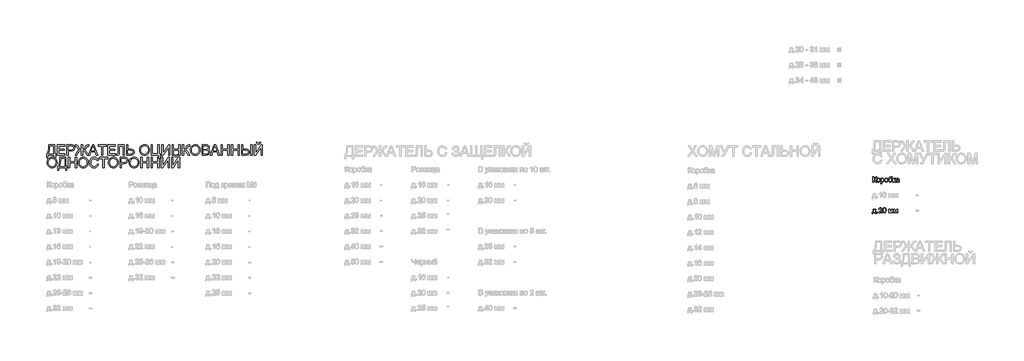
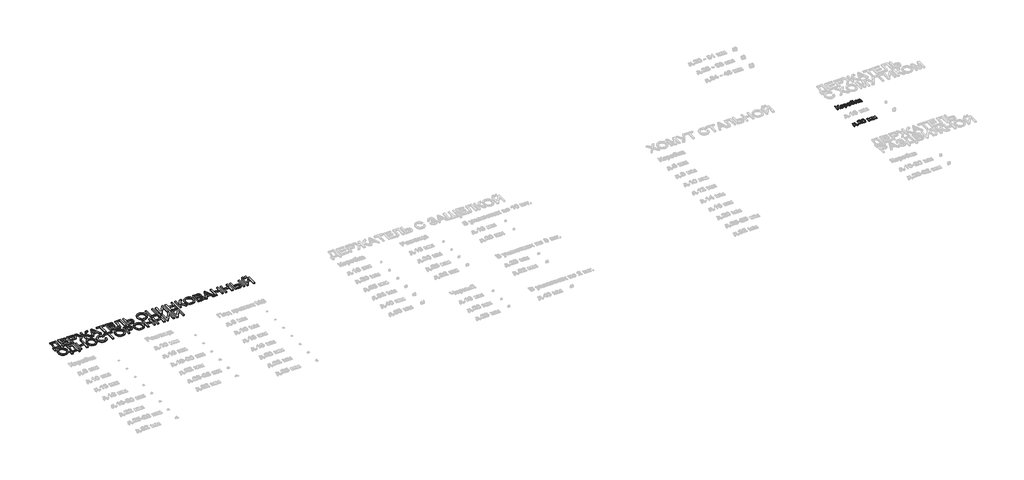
# One storey, part 51 of 98: 3 proxies.
"""IFC4 building model written with IfcOpenShell, lengths in millimetres."""

from ifc_helpers import new_model, si_unit, origin, origin_with_axes, place, context, project, spatial, polyline, outline, extrude, element, save

model = new_model("IFC4")

# Units and contexts
model_context = context("Model", 3, world=origin())
ifc_project = project(units=[si_unit("LENGTHUNIT", "METRE", prefix="MILLI")], contexts=[model_context])

# Site, building, storey
site = spatial("IfcSite", under=ifc_project)
building = spatial("IfcBuilding", under=site)
storey = spatial("IfcBuildingStorey", under=building, Name="Этаж 01", Elevation=0.0)

# Proxies
placement = place(None, origin())
element("IfcBuildingElementProxy", 1, Name="100", ObjectType="100", at=placement, inside=storey, context=model_context, shape_type="SweptSolid", body=[
    extrude(outline(polyline([(16037.8380949, -32060.2739739), (16050.3951337, -32060.2739739), (16050.3951337, -32104.2236096), (16064.4359632, -32100.9004089), (16074.233887, -32084.0882017), (16081.1623312, -32070.0473722), (16089.0104804, -32063.0944025), (16100.2308813, -32060.2739739), (16108.471438, -32060.4211267), (16108.471438, -32072.9781655), (16105.7000603, -32072.9045891), (16102.9286826, -32072.8310127), (16093.118496, -32075.847645), (16085.6627543, -32088.7725658), (16076.7722727, -32104.5179152), (16068.1025204, -32109.7173141), (16077.7962109, -32115.3949595), (16087.3550115, -32127.228497), (16108.471438, -32160.7302841), (16093.903311, -32160.7302841), (16076.0487715, -32132.4278959), (16063.47947, -32117.6513024), (16050.3951337, -32113.6413887), (16050.3951337, -32160.7302841), (16037.8380949, -32160.7302841), (16037.8380949, -32060.2739739)])), origin_with_axes(), (0.0, 0.0, 1.0), 10.0),
    extrude(outline(polyline([(16114.7499574, -32123.8439827), (16117.4661528, -32106.0568882), (16125.614739, -32093.5550317), (16135.6824429, -32087.4297965), (16147.7367096, -32085.3880514), (16160.9283448, -32087.8743206), (16171.4650983, -32095.333128), (16178.3720827, -32107.1758626), (16180.6744109, -32122.8139131), (16176.6031835, -32145.1566129), (16164.7451205, -32157.7994908), (16147.7367096, -32162.2999139), (16134.3856589, -32159.8228418), (16123.8611681, -32152.3916255), (16117.02776, -32140.3005706), (16114.7499574, -32123.8439827)]), holes=[polyline([(16127.3069961, -32123.8194572), (16128.76013, -32135.1839452), (16133.1195317, -32143.2804147), (16139.6800939, -32148.12726), (16147.7367096, -32149.7428751), (16155.7565371, -32148.118063), (16162.3048366, -32143.2436265), (16166.6642382, -32135.0398581), (16168.1173721, -32123.4270497), (16166.6550412, -32112.3936556), (16162.2680484, -32104.4075506), (16155.7105518, -32099.5607053), (16147.7367096, -32097.9450902), (16139.6800939, -32099.5545739), (16133.1195317, -32104.3830251), (16128.76013, -32112.4611006), (16127.3069961, -32123.8194572)])]), origin_with_axes(), (0.0, 0.0, 1.0), 10.0),
    extrude(outline(polyline([(16194.8010795, -32188.9836213), (16194.8010795, -32086.9576813), (16207.3581183, -32086.9576813), (16207.3581183, -32099.2694654), (16216.0401334, -32088.8584049), (16227.7633063, -32085.3880514), (16243.6803339, -32090.2440938), (16254.0791317, -32103.929304), (16257.5862734, -32123.2798969), (16253.6254105, -32143.6237713), (16242.1229668, -32157.4806598), (16226.2427274, -32162.2999139), (16215.3166321, -32159.0748151), (16207.3581183, -32150.9200975), (16207.3581183, -32188.9836213), (16194.8010795, -32188.9836213)]), holes=[polyline([(16207.3581183, -32124.4325939), (16208.716216, -32135.6897829), (16212.7905091, -32143.5624576), (16218.802314, -32148.1977707), (16225.9729472, -32149.7428751), (16233.2600764, -32148.1425884), (16239.4251655, -32143.3417284), (16243.6282173, -32135.1808795), (16245.0292346, -32123.5006261), (16243.6619398, -32112.3047508), (16239.5600556, -32104.3217115), (16233.5574477, -32099.5392455), (16226.487982, -32097.9450902), (16219.3909252, -32099.6404131), (16213.1583911, -32104.7263817), (16208.8081865, -32113.0435804), (16207.3581183, -32124.4325939)])]), origin_with_axes(), (0.0, 0.0, 1.0), 10.0),
    extrude(outline(polyline([(16268.5736823, -32123.8439827), (16271.2898777, -32106.0568882), (16279.4384639, -32093.5550317), (16289.5061678, -32087.4297965), (16301.5604345, -32085.3880514), (16314.7520697, -32087.8743206), (16325.2888232, -32095.333128), (16332.1958077, -32107.1758626), (16334.4981358, -32122.8139131), (16330.4269084, -32145.1566129), (16318.5688454, -32157.7994908), (16301.5604345, -32162.2999139), (16288.2093838, -32159.8228418), (16277.684893, -32152.3916255), (16270.851485, -32140.3005706), (16268.5736823, -32123.8439827)]), holes=[polyline([(16281.130721, -32123.8194572), (16282.5838549, -32135.1839452), (16286.9432566, -32143.2804147), (16293.5038188, -32148.12726), (16301.5604345, -32149.7428751), (16309.580262, -32148.118063), (16316.1285615, -32143.2436265), (16320.4879632, -32135.0398581), (16321.941097, -32123.4270497), (16320.4787661, -32112.3936556), (16316.0917733, -32104.4075506), (16309.5342768, -32099.5607053), (16301.5604345, -32097.9450902), (16293.5038188, -32099.5545739), (16286.9432566, -32104.3830251), (16282.5838549, -32112.4611006), (16281.130721, -32123.8194572)])]), origin_with_axes(), (0.0, 0.0, 1.0), 10.0),
    extrude(outline(polyline([(16400.4225894, -32058.7043441), (16411.4099983, -32058.7043441), (16408.1726367, -32068.5022679), (16401.77149, -32072.0461977), (16386.3940226, -32072.8310127), (16365.6822663, -32075.7250177), (16357.7360152, -32084.995644), (16355.0504766, -32101.403181), (16365.9275209, -32089.3857025), (16379.943825, -32085.3880514), (16393.0097671, -32087.9295029), (16403.6109, -32095.5538572), (16410.6374461, -32107.5130878), (16412.9796281, -32123.0591677), (16408.3320522, -32144.6661036), (16397.3078551, -32157.701389), (16379.943825, -32162.2999139), (16368.6099938, -32160.8191889), (16360.1149854, -32156.3770138), (16349.2624666, -32141.2202756), (16345.4855447, -32109.0551265), (16347.8675807, -32084.9619215), (16355.0136884, -32070.2681014), (16367.1016776, -32062.7725058), (16384.309358, -32060.2739739), (16398.2888738, -32059.991931), (16400.4225894, -32058.7043441)]), holes=[polyline([(16400.4225894, -32122.6667603), (16399.061426, -32112.786063), (16394.9779358, -32104.8735345), (16388.4173736, -32099.6772013), (16379.6249939, -32097.9450902), (16370.4586008, -32099.7753031), (16363.6589153, -32105.2659419), (16359.4466665, -32113.8161326), (16358.0425835, -32124.8250013), (16359.5938193, -32135.4966449), (16364.2475265, -32143.3294657), (16371.1759707, -32148.1395228), (16379.5514175, -32149.7428751), (16387.9697838, -32147.8881367), (16394.6345793, -32142.3239216), (16398.9755868, -32133.7001545), (16400.4225894, -32122.6667603)])]), origin_with_axes(), (0.0, 0.0, 1.0), 10.0),
    extrude(outline(polyline([(16428.6759266, -32086.9576813), (16441.2329653, -32086.9576813), (16441.2329653, -32118.3502782), (16449.6452003, -32116.0939353), (16456.5368563, -32102.9482853), (16462.2635527, -32091.6052572), (16467.3157988, -32087.9141745), (16476.500586, -32086.9576813), (16478.9040817, -32086.9576813), (16478.9040817, -32099.5882965), (16475.5195673, -32099.5147201), (16469.3882007, -32100.8390952), (16465.0717186, -32109.1041774), (16460.0072098, -32118.0437099), (16452.9070873, -32122.4215056), (16460.828813, -32127.3082048), (16468.6033858, -32137.6027693), (16482.0433413, -32160.7302841), (16467.7695199, -32160.7302841), (16454.5993445, -32138.0932786), (16447.9774686, -32128.516084), (16441.2329653, -32126.1984274), (16441.2329653, -32160.7302841), (16428.6759266, -32160.7302841), (16428.6759266, -32086.9576813)])), origin_with_axes(), (0.0, 0.0, 1.0), 10.0),
    extrude(outline(polyline([(16536.980386, -32151.312505), (16524.8034919, -32159.8228418), (16511.3512736, -32162.2999139), (16500.8574397, -32160.8099918), (16493.1165894, -32156.3402256), (16488.3433205, -32149.5528028), (16486.7522309, -32141.109911), (16489.1557266, -32131.1770971), (16495.4710342, -32123.96661), (16504.2634139, -32119.8463317), (16515.1281954, -32117.9578707), (16536.9068096, -32113.6413887), (16536.980386, -32110.8454855), (16533.5222952, -32101.5748592), (16519.6408813, -32097.9450902), (16506.9366897, -32100.3608486), (16500.8788995, -32108.9324991), (16488.3218607, -32107.3628693), (16493.7542515, -32095.1001361), (16504.6926095, -32087.9141745), (16521.259562, -32085.3880514), (16536.4776139, -32087.6198689), (16545.0737899, -32093.2239379), (16548.9242881, -32101.7465375), (16549.5374247, -32112.7339464), (16549.5374247, -32128.3566685), (16550.1750869, -32150.1720708), (16552.6766844, -32160.7302841), (16540.1196457, -32160.7302841), (16536.980386, -32151.312505)]), holes=[polyline([(16536.980386, -32126.1984274), (16516.7223508, -32130.0489257), (16505.9188828, -32132.0845394), (16501.0260523, -32135.3954773), (16499.3092697, -32140.2269942), (16503.0494033, -32147.0205484), (16514.0245495, -32149.7428751), (16526.728741, -32146.7385055), (16534.9202468, -32139.4667047), (16536.9068096, -32129.7546201), (16536.980386, -32126.1984274)])]), origin_with_axes(), (0.0, 0.0, 1.0), 10.0),
])
element("IfcBuildingElementProxy", 2, Name="100", ObjectType="100", at=placement, inside=storey, context=model_context, shape_type="SweptSolid", body=[
    extrude(outline(polyline([(16047.255874, -32686.9576813), (16094.3447694, -32686.9576813), (16094.3447694, -32748.1732453), (16103.7625484, -32748.1732453), (16103.7625484, -32781.1354721), (16091.2055097, -32781.1354721), (16091.2055097, -32760.7302841), (16039.4077248, -32760.7302841), (16039.4077248, -32781.1354721), (16026.850686, -32781.1354721), (16026.850686, -32748.1732453), (16034.6988352, -32748.1732453), (16044.3986572, -32724.2241274), (16047.255874, -32686.9576813)]), holes=[polyline([(16058.2432829, -32699.5147201), (16055.3002269, -32728.1236765), (16048.8255038, -32748.1732453), (16081.7877306, -32748.1732453), (16081.7877306, -32699.5147201), (16058.2432829, -32699.5147201)])]), origin_with_axes(), (0.0, 0.0, 1.0), 10.0),
    extrude(outline(polyline([(16121.0284767, -32760.7302841), (16121.0284767, -32748.1732453), (16133.5855155, -32748.1732453), (16133.5855155, -32760.7302841), (16121.0284767, -32760.7302841)])), origin_with_axes(), (0.0, 0.0, 1.0), 10.0),
    extrude(outline(polyline([(16218.3455272, -32748.1732453), (16218.3455272, -32760.7302841), (16152.4210737, -32760.7302841), (16153.7699743, -32752.0727944), (16161.3973944, -32738.7432035), (16177.1182183, -32724.1873392), (16198.7987305, -32703.2671164), (16204.2188586, -32689.0423459), (16199.1052989, -32677.5276395), (16185.7511824, -32672.8310127), (16171.8329803, -32677.4172749), (16166.5477423, -32690.096941), (16153.9907035, -32688.5273111), (16157.034927, -32676.3810739), (16163.6169491, -32667.5089865), (16173.3934131, -32662.082727), (16186.0209626, -32660.2739739), (16198.7404825, -32662.2850621), (16208.4985525, -32668.3183269), (16214.7065611, -32677.3314357), (16216.7758974, -32688.2820565), (16214.5440799, -32700.1891704), (16207.1251264, -32712.5009545), (16189.1356968, -32729.7055691), (16174.6901971, -32741.7843613), (16169.0248144, -32748.1732453), (16218.3455272, -32748.1732453)])), origin_with_axes(), (0.0, 0.0, 1.0), 10.0),
    extrude(outline(polyline([(16230.902566, -32711.3114694), (16234.5936487, -32682.4082073), (16245.5565321, -32665.7431529), (16263.8647927, -32660.2739739), (16278.5310216, -32663.5113355), (16288.6600392, -32672.8432754), (16294.5461511, -32687.705708), (16296.8270195, -32711.3114694), (16293.172725, -32740.0921041), (16282.2466298, -32756.7939467), (16274.0152701, -32760.9234221), (16263.8647927, -32762.2999139), (16250.8172446, -32759.9086809), (16240.9089562, -32752.734982), (16233.4041635, -32735.7449652), (16230.902566, -32711.3114694)]), holes=[polyline([(16243.4596047, -32711.2869439), (16244.9311327, -32731.0391414), (16249.3457167, -32742.4710744), (16255.9185416, -32747.9249249), (16263.8647927, -32749.7428751), (16271.8110438, -32747.9187936), (16278.3838688, -32742.4465489), (16282.7984528, -32731.0084845), (16284.2699807, -32711.2869439), (16282.8475037, -32691.9792705), (16278.5800725, -32680.4584327), (16272.0195103, -32674.7378677), (16263.7176399, -32672.8310127), (16255.857228, -32674.5110071), (16249.5419204, -32679.5509904), (16244.9801837, -32691.7891982), (16243.4596047, -32711.2869439)])]), origin_with_axes(), (0.0, 0.0, 1.0), 10.0),
    extrude(outline(polyline([(16350.1944343, -32686.9576813), (16371.8013701, -32686.9576813), (16388.4541618, -32746.0150042), (16406.4068031, -32686.9576813), (16427.1062967, -32686.9576813), (16427.1062967, -32760.7302841), (16414.549258, -32760.7302841), (16414.549258, -32701.3296046), (16396.4985147, -32760.7302841), (16380.0174014, -32760.7302841), (16362.751473, -32698.4846505), (16362.751473, -32760.7302841), (16350.1944343, -32760.7302841), (16350.1944343, -32686.9576813)])), origin_with_axes(), (0.0, 0.0, 1.0), 10.0),
    extrude(outline(polyline([(16445.9418549, -32686.9576813), (16467.5487907, -32686.9576813), (16484.2015824, -32746.0150042), (16502.1542238, -32686.9576813), (16522.8537173, -32686.9576813), (16522.8537173, -32760.7302841), (16510.2966786, -32760.7302841), (16510.2966786, -32701.3296046), (16492.2459353, -32760.7302841), (16475.764822, -32760.7302841), (16458.4988937, -32698.4846505), (16458.4988937, -32760.7302841), (16445.9418549, -32760.7302841), (16445.9418549, -32686.9576813)])), origin_with_axes(), (0.0, 0.0, 1.0), 10.0),
])
element("IfcBuildingElementProxy", 3, Name="200", ObjectType="200", at=placement, inside=storey, context=model_context, shape_type="SweptSolid", body=[
    extrude(outline(polyline([(-6.5806255, -31436.6247283), (112.7112428, -31436.6247283), (112.7112428, -31612.4232711), (131.546801, -31612.4232711), (131.546801, -31684.626244), (106.4327234, -31684.626244), (106.4327234, -31637.5373486), (-22.2769239, -31637.5373486), (-22.2769239, -31684.626244), (-47.3910015, -31684.626244), (-47.3910015, -31612.4232711), (-31.694703, -31612.4232711), (-20.7072941, -31589.6421785), (-12.8591449, -31557.5965911), (-8.1502553, -31516.2865087), (-6.5806255, -31465.7119314), (-6.5806255, -31436.6247283)]), holes=[polyline([(87.5971653, -31461.7388059), (18.5334521, -31461.7388059), (18.5334521, -31471.843298), (13.4321551, -31540.6617566), (5.8783114, -31580.4298002), (-6.5806255, -31612.4232711), (87.5971653, -31612.4232711), (87.5971653, -31461.7388059)])]), origin_with_axes(), (0.0, 0.0, 1.0), 20.0),
    extrude(outline(polyline([(162.9393979, -31637.5373486), (162.9393979, -31436.6247283), (307.3453437, -31436.6247283), (307.3453437, -31461.7388059), (188.0534754, -31461.7388059), (188.0534754, -31521.38474), (301.0668244, -31521.38474), (301.0668244, -31546.4988175), (188.0534754, -31546.4988175), (188.0534754, -31612.4232711), (310.4846034, -31612.4232711), (310.4846034, -31637.5373486), (162.9393979, -31637.5373486)])), origin_with_axes(), (0.0, 0.0, 1.0), 20.0),
    extrude(outline(polyline([(348.1557197, -31637.5373486), (348.1557197, -31436.6247283), (422.6150356, -31436.6247283), (452.6342064, -31438.5377147), (477.0370454, -31447.9309683), (485.9091328, -31456.2573641), (492.8559712, -31467.3551376), (497.3441315, -31480.4456053), (498.840185, -31494.7500836), (494.7996144, -31518.4294213), (482.6779026, -31538.160159), (472.9704165, -31545.9286004), (460.0102404, -31551.4774872), (424.3318182, -31555.9165966), (373.2697973, -31555.9165966), (373.2697973, -31637.5373486), (348.1557197, -31637.5373486)]), holes=[polyline([(373.2697973, -31530.8025191), (425.8033462, -31530.8025191), (448.0724696, -31528.4971252), (462.7877494, -31521.5809437), (470.9915179, -31510.4831702), (473.7261074, -31495.6330003), (472.113558, -31484.3512858), (467.2759098, -31474.8354049), (459.8140366, -31467.6739687), (450.3288125, -31463.4555885), (425.214735, -31461.7388059), (373.2697973, -31461.7388059), (373.2697973, -31530.8025191)])]), origin_with_axes(), (0.0, 0.0, 1.0), 20.0),
    extrude(outline(polyline([(652.6639099, -31436.6247283), (652.6639099, -31524.5239997), (671.0334842, -31522.8317425), (682.5849788, -31517.754971), (691.6226132, -31506.0072726), (702.4506066, -31484.3022349), (716.675377, -31456.2205759), (732.5924047, -31442.2655856), (755.2294101, -31436.6247283), (771.9557782, -31436.9190339), (771.9557782, -31461.7388059), (766.4620737, -31461.5916531), (760.8212165, -31461.4445003), (749.0857808, -31462.9773419), (740.8574869, -31467.5758668), (725.6516977, -31493.2295046), (709.5875173, -31521.9488257), (689.8935678, -31534.6284918), (709.7469328, -31546.3516647), (728.9871612, -31570.5337746), (771.9557782, -31637.5373486), (742.7704732, -31637.5373486), (706.3256302, -31580.6873176), (681.2360782, -31551.7963183), (669.0040018, -31545.468748), (652.6639099, -31543.3595578), (652.6639099, -31637.5373486), (627.5498323, -31637.5373486), (627.5498323, -31543.3595578), (613.7971771, -31544.9966327), (601.7735672, -31549.9078574), (589.6763809, -31560.2269473), (575.7029965, -31578.0876182), (573.888112, -31580.6873176), (537.443269, -31637.5373486), (508.257964, -31637.5373486), (551.1775301, -31570.5337746), (570.6384877, -31546.2780883), (590.3692254, -31534.6284918), (571.7298709, -31523.2732009), (554.5620445, -31493.2295046), (538.914797, -31467.0363066), (530.8336558, -31463.063181), (519.5396786, -31461.7388059), (508.257964, -31462.0331114), (508.257964, -31436.9190339), (524.1014153, -31436.6247283), (547.645863, -31442.1429582), (563.2685851, -31455.9753213), (577.7631357, -31484.3512858), (588.5972604, -31506.2954468), (597.555187, -31517.8775983), (609.0637621, -31522.739772), (627.5498323, -31524.5239997), (627.5498323, -31436.6247283), (652.6639099, -31436.6247283)])), origin_with_axes(), (0.0, 0.0, 1.0), 20.0),
    extrude(outline(polyline([(767.3940414, -31637.5373486), (847.5923164, -31436.6247283), (868.978523, -31436.6247283), (949.176798, -31637.5373486), (922.6402434, -31637.5373486), (899.635356, -31574.7521548), (816.8864325, -31574.7521548), (793.930596, -31637.5373486), (767.3940414, -31637.5373486)]), holes=[polyline([(826.1080079, -31549.6380772), (890.4628316, -31549.6380772), (872.3630374, -31500.243788), (858.2854197, -31461.7388059), (845.7774319, -31495.9273059), (826.1080079, -31549.6380772)])]), origin_with_axes(), (0.0, 0.0, 1.0), 20.0),
    extrude(outline(polyline([(1026.2358133, -31637.5373486), (1026.2358133, -31461.7388059), (960.3113597, -31461.7388059), (960.3113597, -31436.6247283), (1117.2743443, -31436.6247283), (1117.2743443, -31461.7388059), (1051.3498908, -31461.7388059), (1051.3498908, -31637.5373486), (1026.2358133, -31637.5373486)])), origin_with_axes(), (0.0, 0.0, 1.0), 20.0),
    extrude(outline(polyline([(1145.5276816, -31637.5373486), (1145.5276816, -31436.6247283), (1289.9336274, -31436.6247283), (1289.9336274, -31461.7388059), (1170.6417591, -31461.7388059), (1170.6417591, -31521.38474), (1283.655108, -31521.38474), (1283.655108, -31546.4988175), (1170.6417591, -31546.4988175), (1170.6417591, -31612.4232711), (1293.0728871, -31612.4232711), (1293.0728871, -31637.5373486), (1145.5276816, -31637.5373486)])), origin_with_axes(), (0.0, 0.0, 1.0), 20.0),
    extrude(outline(polyline([(1346.4403019, -31436.6247283), (1468.8714299, -31436.6247283), (1468.8714299, -31637.5373486), (1443.7573523, -31637.5373486), (1443.7573523, -31461.7388059), (1371.5543794, -31461.7388059), (1371.5543794, -31564.2552552), (1368.6358489, -31609.9952499), (1364.1170317, -31622.9201707), (1356.3976412, -31632.6077299), (1345.8271652, -31638.6593887), (1332.7550916, -31640.6766083), (1311.9084452, -31637.5373486), (1315.0477049, -31612.4232711), (1327.0651834, -31615.5625308), (1335.5571262, -31613.876405), (1341.608785, -31608.8180275), (1345.2324226, -31597.5056562), (1346.4403019, -31577.0575486), (1346.4403019, -31436.6247283)])), origin_with_axes(), (0.0, 0.0, 1.0), 20.0),
    extrude(outline(polyline([(1512.8210655, -31436.6247283), (1537.9351431, -31436.6247283), (1537.9351431, -31521.38474), (1584.9749875, -31521.38474), (1613.3570835, -31523.3529087), (1632.6770196, -31529.2574147), (1645.3812111, -31538.5525664), (1653.9160734, -31550.6926723), (1658.7537217, -31564.4575903), (1660.3662711, -31578.6271785), (1656.4912474, -31600.6755727), (1644.8661763, -31619.8299619), (1635.4483973, -31627.5769436), (1622.6951548, -31633.1105019), (1587.1822795, -31637.5373486), (1512.8210655, -31637.5373486), (1512.8210655, -31436.6247283)]), holes=[polyline([(1537.9351431, -31612.4232711), (1587.1332286, -31612.4232711), (1611.8794241, -31609.9400676), (1626.177771, -31602.4904572), (1632.9835879, -31591.5337051), (1635.2521935, -31578.5290766), (1633.6089873, -31567.9953888), (1628.6793686, -31559.1539582), (1621.009029, -31552.5750018), (1611.1436601, -31548.8287368), (1573.9875786, -31546.4988175), (1537.9351431, -31546.4988175), (1537.9351431, -31612.4232711)])]), origin_with_axes(), (0.0, 0.0, 1.0), 20.0),
    extrude(outline(polyline([(1763.9618409, -31539.7297888), (1765.635704, -31516.1638814), (1770.6572932, -31495.3019065), (1779.0266086, -31477.1438644), (1790.7436502, -31461.6897549), (1805.1063764, -31449.3503797), (1821.4127458, -31440.5365402), (1839.6627585, -31435.2482365), (1859.8564143, -31433.4854686), (1886.2090279, -31436.7964066), (1909.8393147, -31446.7292204), (1929.4596878, -31462.5849344), (1943.7825602, -31483.6645728), (1952.5381516, -31508.9503286), (1955.4566821, -31537.424395), (1952.3848675, -31566.2786061), (1943.1694235, -31591.9199812), (1928.3192536, -31613.0364077), (1908.3432613, -31628.3157733), (1884.9153096, -31637.5863995), (1859.7092615, -31640.6766083), (1832.9519777, -31637.2614371), (1809.1868009, -31627.0159236), (1789.6154787, -31610.865904), (1775.4397592, -31589.7372147), (1766.8313205, -31565.4263462), (1763.9618409, -31539.7297888)]), holes=[polyline([(1789.0759185, -31539.9750435), (1794.0975077, -31571.4044286), (1809.1622754, -31595.3535465), (1831.8054122, -31610.5102847), (1859.5621087, -31615.5625308), (1887.7234755, -31610.4612338), (1910.4034005, -31595.1573428), (1919.1268023, -31583.8848253), (1925.3578036, -31570.4724609), (1930.3426046, -31537.2281913), (1928.208889, -31514.995856), (1921.8077423, -31495.7801531), (1911.3047114, -31480.0654606), (1896.865343, -31468.3361563), (1879.4461306, -31461.0336987), (1860.0035671, -31458.5995462), (1832.9887659, -31463.2900416), (1810.0206667, -31477.3615279), (1800.8573393, -31488.3106158), (1794.3121055, -31502.3958977), (1789.0759185, -31539.9750435)])]), origin_with_axes(), (0.0, 0.0, 1.0), 20.0),
    extrude(outline(polyline([(1989.9885388, -31436.6247283), (2015.1026163, -31436.6247283), (2015.1026163, -31612.4232711), (2121.8374458, -31612.4232711), (2121.8374458, -31436.6247283), (2146.9515234, -31436.6247283), (2146.9515234, -31612.4232711), (2165.7870815, -31612.4232711), (2165.7870815, -31694.0440231), (2140.673004, -31694.0440231), (2140.673004, -31637.5373486), (1989.9885388, -31637.5373486), (1989.9885388, -31436.6247283)])), origin_with_axes(), (0.0, 0.0, 1.0), 20.0),
    extrude(outline(polyline([(2197.1796784, -31436.6247283), (2222.293756, -31436.6247283), (2222.293756, -31595.745954), (2327.4589557, -31436.6247283), (2354.142663, -31436.6247283), (2354.142663, -31637.5373486), (2329.0285855, -31637.5373486), (2329.0285855, -31478.8575814), (2224.1086405, -31637.5373486), (2197.1796784, -31637.5373486), (2197.1796784, -31436.6247283)])), origin_with_axes(), (0.0, 0.0, 1.0), 20.0),
    extrude(outline(polyline([(2398.0922987, -31637.5373486), (2398.0922987, -31436.6247283), (2423.2063763, -31436.6247283), (2423.2063763, -31518.2454803), (2529.9412058, -31518.2454803), (2529.9412058, -31436.6247283), (2555.0552833, -31436.6247283), (2555.0552833, -31637.5373486), (2529.9412058, -31637.5373486), (2529.9412058, -31543.3595578), (2423.2063763, -31543.3595578), (2423.2063763, -31637.5373486), (2398.0922987, -31637.5373486)])), origin_with_axes(), (0.0, 0.0, 1.0), 20.0),
    extrude(outline(polyline([(2599.004919, -31436.6247283), (2624.1189966, -31436.6247283), (2624.1189966, -31524.5239997), (2641.1212761, -31522.8623994), (2652.2006555, -31517.8775983), (2661.1585821, -31506.148294), (2671.7965031, -31484.253184), (2685.6533916, -31456.171525), (2701.3496901, -31442.2655856), (2723.7904918, -31436.6247283), (2740.2716052, -31436.9190339), (2740.2716052, -31462.0331114), (2734.7288498, -31461.8859586), (2729.1860944, -31461.7388059), (2717.6836507, -31463.247122), (2709.5657213, -31467.7720706), (2694.6542378, -31493.6219121), (2676.8732747, -31525.1126109), (2659.53377, -31535.5114086), (2678.9211511, -31546.8666995), (2698.0387521, -31570.5337746), (2740.2716052, -31637.5373486), (2711.1353512, -31637.5373486), (2675.4262722, -31580.9325723), (2650.2876692, -31551.3793853), (2638.6809922, -31545.3645147), (2624.1189966, -31543.3595578), (2624.1189966, -31637.5373486), (2599.004919, -31637.5373486), (2599.004919, -31436.6247283)])), origin_with_axes(), (0.0, 0.0, 1.0), 20.0),
    extrude(outline(polyline([(2752.828644, -31539.7297888), (2754.502507, -31516.1638814), (2759.5240963, -31495.3019065), (2767.8934117, -31477.1438644), (2779.6104532, -31461.6897549), (2793.9731794, -31449.3503797), (2810.2795489, -31440.5365402), (2828.5295615, -31435.2482365), (2848.7232174, -31433.4854686), (2875.0758309, -31436.7964066), (2898.7061178, -31446.7292204), (2918.3264908, -31462.5849344), (2932.6493632, -31483.6645728), (2941.4049547, -31508.9503286), (2944.3234852, -31537.424395), (2941.2516705, -31566.2786061), (2932.0362265, -31591.9199812), (2917.1860567, -31613.0364077), (2897.2100643, -31628.3157733), (2873.7821126, -31637.5863995), (2848.5760646, -31640.6766083), (2821.8187808, -31637.2614371), (2798.0536039, -31627.0159236), (2778.4822817, -31610.865904), (2764.3065622, -31589.7372147), (2755.6981235, -31565.4263462), (2752.828644, -31539.7297888)]), holes=[polyline([(2777.9427215, -31539.9750435), (2782.9643107, -31571.4044286), (2798.0290784, -31595.3535465), (2820.6722152, -31610.5102847), (2848.4289118, -31615.5625308), (2876.5902785, -31610.4612338), (2899.2702035, -31595.1573428), (2907.9936053, -31583.8848253), (2914.2246066, -31570.4724609), (2919.2094076, -31537.2281913), (2917.0756921, -31514.995856), (2910.6745453, -31495.7801531), (2900.1715144, -31480.0654606), (2885.7321461, -31468.3361563), (2868.3129336, -31461.0336987), (2848.8703702, -31458.5995462), (2821.855569, -31463.2900416), (2798.8874697, -31477.3615279), (2789.7241424, -31488.3106158), (2783.1789086, -31502.3958977), (2777.9427215, -31539.9750435)])]), origin_with_axes(), (0.0, 0.0, 1.0), 20.0),
    extrude(outline(polyline([(2978.8553418, -31637.5373486), (2978.8553418, -31436.6247283), (3055.5219496, -31436.6247283), (3076.6077193, -31438.1023877), (3093.0704386, -31442.5353657), (3105.688791, -31450.034027), (3115.2414601, -31460.7087363), (3121.2563308, -31473.265775), (3123.2612876, -31486.411425), (3121.5751618, -31498.5086113), (3116.5167844, -31509.8822963), (3108.0493671, -31519.8335043), (3096.1361218, -31527.6632594), (3110.3670237, -31535.0944757), (3120.8823174, -31546.4007157), (3127.3754346, -31560.8339526), (3129.539807, -31577.6461598), (3123.6291696, -31604.6486982), (3108.9874662, -31623.8766639), (3087.1352757, -31634.0792579), (3054.9333384, -31637.5373486), (2978.8553418, -31637.5373486)]), holes=[polyline([(3003.9694193, -31518.2454803), (3049.8320414, -31518.2454803), (3076.6138506, -31516.0872393), (3092.727082, -31506.7920875), (3098.1472101, -31490.4336015), (3093.094964, -31474.05059), (3078.6249389, -31464.3630308), (3046.3494252, -31461.7388059), (3003.9694193, -31461.7388059), (3003.9694193, -31518.2454803)]), polyline([(3003.9694193, -31612.4232711), (3055.4728986, -31612.4232711), (3074.1122531, -31611.4422524), (3089.8821279, -31605.9730734), (3100.3299766, -31594.8139862), (3104.4257295, -31577.8914145), (3099.6187381, -31558.3691433), (3093.3218246, -31551.3119403), (3084.0450669, -31546.7195467), (3053.020352, -31543.3595578), (3003.9694193, -31543.3595578), (3003.9694193, -31612.4232711)])]), origin_with_axes(), (0.0, 0.0, 1.0), 20.0),
    extrude(outline(polyline([(3140.6743687, -31637.5373486), (3220.8726437, -31436.6247283), (3242.2588503, -31436.6247283), (3322.4571253, -31637.5373486), (3295.9205707, -31637.5373486), (3272.9156833, -31574.7521548), (3190.1667598, -31574.7521548), (3167.2109233, -31637.5373486), (3140.6743687, -31637.5373486)]), holes=[polyline([(3199.3883352, -31549.6380772), (3263.7431589, -31549.6380772), (3245.6433647, -31500.243788), (3231.565747, -31461.7388059), (3219.0577592, -31495.9273059), (3199.3883352, -31549.6380772)])]), origin_with_axes(), (0.0, 0.0, 1.0), 20.0),
    extrude(outline(polyline([(3349.2879855, -31637.5373486), (3349.2879855, -31436.6247283), (3374.402063, -31436.6247283), (3374.402063, -31518.2454803), (3481.1368925, -31518.2454803), (3481.1368925, -31436.6247283), (3506.2509701, -31436.6247283), (3506.2509701, -31637.5373486), (3481.1368925, -31637.5373486), (3481.1368925, -31543.3595578), (3374.402063, -31543.3595578), (3374.402063, -31637.5373486), (3349.2879855, -31637.5373486)])), origin_with_axes(), (0.0, 0.0, 1.0), 20.0),
    extrude(outline(polyline([(3550.2006058, -31637.5373486), (3550.2006058, -31436.6247283), (3575.3146833, -31436.6247283), (3575.3146833, -31518.2454803), (3682.0495128, -31518.2454803), (3682.0495128, -31436.6247283), (3707.1635904, -31436.6247283), (3707.1635904, -31637.5373486), (3682.0495128, -31637.5373486), (3682.0495128, -31543.3595578), (3575.3146833, -31543.3595578), (3575.3146833, -31637.5373486), (3550.2006058, -31637.5373486)])), origin_with_axes(), (0.0, 0.0, 1.0), 20.0),
    extrude(outline(polyline([(3926.9117688, -31436.6247283), (3952.0258464, -31436.6247283), (3952.0258464, -31637.5373486), (3926.9117688, -31637.5373486), (3926.9117688, -31436.6247283)])), origin_with_axes(), (0.0, 0.0, 1.0), 20.0),
    extrude(outline(polyline([(3751.1132261, -31436.6247283), (3776.2273036, -31436.6247283), (3776.2273036, -31521.38474), (3824.4934214, -31521.38474), (3863.7709557, -31525.7747985), (3877.3304729, -31531.2623716), (3886.8371568, -31538.9449739), (3898.0575577, -31557.6824302), (3901.7976913, -31578.7743313), (3897.8429598, -31600.8043314), (3885.9787655, -31619.9035383), (3876.3724469, -31627.6183303), (3863.3724169, -31633.128896), (3827.1912227, -31637.5373486), (3751.1132261, -31637.5373486), (3751.1132261, -31436.6247283)]), holes=[polyline([(3776.2273036, -31612.4232711), (3826.945968, -31612.4232711), (3849.5032657, -31610.4305769), (3864.8868644, -31604.4524945), (3873.7344264, -31594.0843536), (3876.6836137, -31578.921484), (3874.8993861, -31567.9708633), (3869.546703, -31558.9577544), (3861.36746, -31552.3726667), (3851.1035524, -31548.7061095), (3813.3588596, -31546.4988175), (3776.2273036, -31546.4988175), (3776.2273036, -31612.4232711)])]), origin_with_axes(), (0.0, 0.0, 1.0), 20.0),
    extrude(outline(polyline([(4099.5710519, -31386.3965732), (4118.40661, -31386.3965732), (4114.3537767, -31402.4791478), (4106.2174533, -31414.3310794), (4094.3655217, -31421.633537), (4079.1658639, -31424.0676895), (4062.6724878, -31421.6519311), (4049.8824571, -31414.4046558), (4041.1391283, -31402.5711183), (4036.7858581, -31386.3965732), (4055.6214162, -31386.3965732), (4062.6847505, -31400.5477673), (4076.909521, -31405.2321314), (4092.5077176, -31400.6949201), (4099.5710519, -31386.3965732)])), origin_with_axes(), (0.0, 0.0, 1.0), 20.0),
    extrude(outline(polyline([(3999.1147417, -31436.6247283), (4024.2288193, -31436.6247283), (4024.2288193, -31595.745954), (4129.394019, -31436.6247283), (4156.0777264, -31436.6247283), (4156.0777264, -31637.5373486), (4130.9636488, -31637.5373486), (4130.9636488, -31478.8575814), (4026.0437038, -31637.5373486), (3999.1147417, -31637.5373486), (3999.1147417, -31436.6247283)])), origin_with_axes(), (0.0, 0.0, 1.0), 20.0),
    extrude(outline(polyline([(-34.8339627, -31783.6794245), (-33.1600996, -31760.113517), (-28.1385104, -31739.2515422), (-19.769195, -31721.0935001), (-8.0521535, -31705.6393906), (6.3105728, -31693.3000154), (22.6169422, -31684.4861759), (40.8669549, -31679.1978722), (61.0606107, -31677.4351043), (87.4132243, -31680.7460423), (111.0435111, -31690.6788561), (130.6638842, -31706.5345701), (144.9867565, -31727.6142085), (153.742348, -31752.8999643), (156.6608785, -31781.3740307), (153.5890639, -31810.2282418), (144.3736199, -31835.8696169), (129.52345, -31856.9860434), (109.5474577, -31872.265409), (86.1195059, -31881.5360352), (60.9134579, -31884.626244), (34.1561741, -31881.2110728), (10.3909972, -31870.9655592), (-9.1803249, -31854.8155397), (-23.3560445, -31833.6868504), (-31.9644831, -31809.3759819), (-34.8339627, -31783.6794245)]), holes=[polyline([(-9.7198852, -31783.9246792), (-4.6982959, -31815.3540643), (10.3664718, -31839.3031822), (33.0096086, -31854.4599204), (60.7663051, -31859.5121665), (88.9276718, -31854.4108695), (111.6075968, -31839.1069785), (120.3309987, -31827.834461), (126.5619999, -31814.4220966), (131.546801, -31781.177827), (129.4130854, -31758.9454917), (123.0119387, -31739.7297888), (112.5089077, -31724.0150963), (98.0695394, -31712.285792), (80.650327, -31704.9833344), (61.2077635, -31702.5491818), (34.1929623, -31707.2396773), (11.2248631, -31721.3111636), (2.0615357, -31732.2602515), (-4.4836981, -31746.3455334), (-9.7198852, -31783.9246792)])]), origin_with_axes(), (0.0, 0.0, 1.0), 20.0),
    extrude(outline(polyline([(210.0282933, -31680.574364), (329.3201616, -31680.574364), (329.3201616, -31856.3729068), (348.1557197, -31856.3729068), (348.1557197, -31928.5758797), (323.0416422, -31928.5758797), (323.0416422, -31881.4869843), (194.3319948, -31881.4869843), (194.3319948, -31928.5758797), (169.2179173, -31928.5758797), (169.2179173, -31856.3729068), (184.9142158, -31856.3729068), (195.9016247, -31833.5918142), (203.7497739, -31801.5462268), (208.4586634, -31760.2361444), (210.0282933, -31709.6615671), (210.0282933, -31680.574364)]), holes=[polyline([(304.2060841, -31705.6884415), (235.1423708, -31705.6884415), (235.1423708, -31715.7929337), (230.0410738, -31784.6113922), (222.4872302, -31824.3794359), (210.0282933, -31856.3729068), (304.2060841, -31856.3729068), (304.2060841, -31705.6884415)])]), origin_with_axes(), (0.0, 0.0, 1.0), 20.0),
    extrude(outline(polyline([(379.5483167, -31881.4869843), (379.5483167, -31680.574364), (404.6623942, -31680.574364), (404.6623942, -31762.195116), (511.3972237, -31762.195116), (511.3972237, -31680.574364), (536.5113013, -31680.574364), (536.5113013, -31881.4869843), (511.3972237, -31881.4869843), (511.3972237, -31787.3091935), (404.6623942, -31787.3091935), (404.6623942, -31881.4869843), (379.5483167, -31881.4869843)])), origin_with_axes(), (0.0, 0.0, 1.0), 20.0),
    extrude(outline(polyline([(571.0431579, -31783.6794245), (572.717021, -31760.113517), (577.7386102, -31739.2515422), (586.1079256, -31721.0935001), (597.8249671, -31705.6393906), (612.1876934, -31693.3000154), (628.4940628, -31684.4861759), (646.7440754, -31679.1978722), (666.9377313, -31677.4351043), (693.2903449, -31680.7460423), (716.9206317, -31690.6788561), (736.5410048, -31706.5345701), (750.8638771, -31727.6142085), (759.6194686, -31752.8999643), (762.5379991, -31781.3740307), (759.4661845, -31810.2282418), (750.2507405, -31835.8696169), (735.4005706, -31856.9860434), (715.4245783, -31872.265409), (691.9966265, -31881.5360352), (666.7905785, -31884.626244), (640.0332947, -31881.2110728), (616.2681178, -31870.9655592), (596.6967957, -31854.8155397), (582.5210761, -31833.6868504), (573.9126375, -31809.3759819), (571.0431579, -31783.6794245)]), holes=[polyline([(596.1572354, -31783.9246792), (601.1788247, -31815.3540643), (616.2435924, -31839.3031822), (638.8867292, -31854.4599204), (666.6434257, -31859.5121665), (694.8047924, -31854.4108695), (717.4847174, -31839.1069785), (726.2081192, -31827.834461), (732.4391205, -31814.4220966), (737.4239216, -31781.177827), (735.290206, -31758.9454917), (728.8890593, -31739.7297888), (718.3860283, -31724.0150963), (703.94666, -31712.285792), (686.5274475, -31704.9833344), (667.0848841, -31702.5491818), (640.0700829, -31707.2396773), (617.1019837, -31721.3111636), (607.9386563, -31732.2602515), (601.3934225, -31746.3455334), (596.1572354, -31783.9246792)])]), origin_with_axes(), (0.0, 0.0, 1.0), 20.0),
    extrude(outline(polyline([(938.3365419, -31810.0688263), (963.4506194, -31816.5435494), (951.8623366, -31845.8085621), (933.6767033, -31867.1886374), (909.788899, -31880.2668424), (881.0941034, -31884.626244), (851.9639808, -31881.3275688), (828.8303346, -31871.4315431), (811.0984225, -31855.2815235), (798.1735017, -31833.2208665), (790.2824329, -31807.2851859), (787.6520766, -31779.5100952), (790.6257894, -31750.2144257), (799.5469278, -31724.9164072), (813.9495079, -31704.4192487), (833.3675459, -31689.5261592), (856.3969588, -31680.457868), (881.6336637, -31677.4351043), (909.169631, -31681.3469162), (931.9353952, -31693.0823518), (949.2197176, -31711.91791), (960.3113597, -31737.1300894), (935.1972822, -31743.1143032), (926.4907416, -31724.7999112), (914.5958905, -31712.2367411), (899.3655759, -31704.9710717), (880.652645, -31702.5491818), (859.0824974, -31705.2347204), (841.3628479, -31713.2913361), (827.916761, -31725.8729003), (819.1673009, -31742.1332845), (814.3664409, -31760.5151216), (812.7661542, -31779.4610443), (814.6607465, -31802.6621355), (820.3445233, -31822.7239669), (830.0320825, -31838.8801179), (843.9380219, -31850.3641675), (860.6092077, -31857.2251667), (878.5925059, -31859.5121665), (899.5556482, -31856.3974322), (917.0239116, -31847.0532296), (930.2124811, -31831.5776603), (938.3365419, -31810.0688263)])), origin_with_axes(), (0.0, 0.0, 1.0), 20.0),
    extrude(outline(polyline([(1048.2106311, -31881.4869843), (1048.2106311, -31705.6884415), (982.2861776, -31705.6884415), (982.2861776, -31680.574364), (1139.2491622, -31680.574364), (1139.2491622, -31705.6884415), (1073.3247086, -31705.6884415), (1073.3247086, -31881.4869843), (1048.2106311, -31881.4869843)])), origin_with_axes(), (0.0, 0.0, 1.0), 20.0),
    extrude(outline(polyline([(1158.0847203, -31783.6794245), (1159.7585834, -31760.113517), (1164.7801726, -31739.2515422), (1173.149488, -31721.0935001), (1184.8665296, -31705.6393906), (1199.2292558, -31693.3000154), (1215.5356252, -31684.4861759), (1233.7856379, -31679.1978722), (1253.9792937, -31677.4351043), (1280.3319073, -31680.7460423), (1303.9621941, -31690.6788561), (1323.5825672, -31706.5345701), (1337.9054396, -31727.6142085), (1346.6610311, -31752.8999643), (1349.5795615, -31781.3740307), (1346.5077469, -31810.2282418), (1337.2923029, -31835.8696169), (1322.442133, -31856.9860434), (1302.4661407, -31872.265409), (1279.038189, -31881.5360352), (1253.8321409, -31884.626244), (1227.0748572, -31881.2110728), (1203.3096803, -31870.9655592), (1183.7383581, -31854.8155397), (1169.5626386, -31833.6868504), (1160.9541999, -31809.3759819), (1158.0847203, -31783.6794245)]), holes=[polyline([(1183.1987979, -31783.9246792), (1188.2203871, -31815.3540643), (1203.2851548, -31839.3031822), (1225.9282916, -31854.4599204), (1253.6849881, -31859.5121665), (1281.8463549, -31854.4108695), (1304.5262799, -31839.1069785), (1313.2496817, -31827.834461), (1319.480683, -31814.4220966), (1324.465484, -31781.177827), (1322.3317684, -31758.9454917), (1315.9306217, -31739.7297888), (1305.4275908, -31724.0150963), (1290.9882224, -31712.285792), (1273.56901, -31704.9833344), (1254.1264465, -31702.5491818), (1227.1116454, -31707.2396773), (1204.1435461, -31721.3111636), (1194.9802188, -31732.2602515), (1188.4349849, -31746.3455334), (1183.1987979, -31783.9246792)])]), origin_with_axes(), (0.0, 0.0, 1.0), 20.0),
    extrude(outline(polyline([(1384.1114182, -31881.4869843), (1384.1114182, -31680.574364), (1458.570734, -31680.574364), (1488.5899048, -31682.4873504), (1512.9927438, -31691.880604), (1521.8648313, -31700.2069998), (1528.8116696, -31711.3047733), (1533.2998299, -31724.395241), (1534.7958834, -31738.6997192), (1530.7553128, -31762.379057), (1518.6336011, -31782.1097947), (1508.9261149, -31789.8782361), (1495.9659388, -31795.4271229), (1460.2875166, -31799.8662323), (1409.2254957, -31799.8662323), (1409.2254957, -31881.4869843), (1384.1114182, -31881.4869843)]), holes=[polyline([(1409.2254957, -31774.7521548), (1461.7590446, -31774.7521548), (1484.0281681, -31772.4467609), (1498.7434479, -31765.5305794), (1506.9472164, -31754.4328059), (1509.6818058, -31739.582636), (1508.0692564, -31728.3009215), (1503.2316082, -31718.7850406), (1495.7697351, -31711.6236044), (1486.284511, -31707.4052242), (1461.1704334, -31705.6884415), (1409.2254957, -31705.6884415), (1409.2254957, -31774.7521548)])]), origin_with_axes(), (0.0, 0.0, 1.0), 20.0),
    extrude(outline(polyline([(1559.9099609, -31783.6794245), (1561.583824, -31760.113517), (1566.6054132, -31739.2515422), (1574.9747286, -31721.0935001), (1586.6917702, -31705.6393906), (1601.0544964, -31693.3000154), (1617.3608658, -31684.4861759), (1635.6108785, -31679.1978722), (1655.8045343, -31677.4351043), (1682.1571479, -31680.7460423), (1705.7874347, -31690.6788561), (1725.4078078, -31706.5345701), (1739.7306802, -31727.6142085), (1748.4862717, -31752.8999643), (1751.4048021, -31781.3740307), (1748.3329875, -31810.2282418), (1739.1175435, -31835.8696169), (1724.2673736, -31856.9860434), (1704.2913813, -31872.265409), (1680.8634296, -31881.5360352), (1655.6573815, -31884.626244), (1628.9000978, -31881.2110728), (1605.1349209, -31870.9655592), (1585.5635987, -31854.8155397), (1571.3878792, -31833.6868504), (1562.7794405, -31809.3759819), (1559.9099609, -31783.6794245)]), holes=[polyline([(1585.0240385, -31783.9246792), (1590.0456277, -31815.3540643), (1605.1103954, -31839.3031822), (1627.7535322, -31854.4599204), (1655.5102287, -31859.5121665), (1683.6715955, -31854.4108695), (1706.3515205, -31839.1069785), (1715.0749223, -31827.834461), (1721.3059236, -31814.4220966), (1726.2907246, -31781.177827), (1724.157009, -31758.9454917), (1717.7558623, -31739.7297888), (1707.2528314, -31724.0150963), (1692.813463, -31712.285792), (1675.3942506, -31704.9833344), (1655.9516871, -31702.5491818), (1628.936886, -31707.2396773), (1605.9687867, -31721.3111636), (1596.8054594, -31732.2602515), (1590.2602255, -31746.3455334), (1585.0240385, -31783.9246792)])]), origin_with_axes(), (0.0, 0.0, 1.0), 20.0),
    extrude(outline(polyline([(1785.9366588, -31881.4869843), (1785.9366588, -31680.574364), (1811.0507363, -31680.574364), (1811.0507363, -31762.195116), (1917.7855658, -31762.195116), (1917.7855658, -31680.574364), (1942.8996434, -31680.574364), (1942.8996434, -31881.4869843), (1917.7855658, -31881.4869843), (1917.7855658, -31787.3091935), (1811.0507363, -31787.3091935), (1811.0507363, -31881.4869843), (1785.9366588, -31881.4869843)])), origin_with_axes(), (0.0, 0.0, 1.0), 20.0),
    extrude(outline(polyline([(1986.8492791, -31881.4869843), (1986.8492791, -31680.574364), (2011.9633566, -31680.574364), (2011.9633566, -31762.195116), (2118.6981861, -31762.195116), (2118.6981861, -31680.574364), (2143.8122637, -31680.574364), (2143.8122637, -31881.4869843), (2118.6981861, -31881.4869843), (2118.6981861, -31787.3091935), (2011.9633566, -31787.3091935), (2011.9633566, -31881.4869843), (1986.8492791, -31881.4869843)])), origin_with_axes(), (0.0, 0.0, 1.0), 20.0),
    extrude(outline(polyline([(2187.7618994, -31680.574364), (2212.8759769, -31680.574364), (2212.8759769, -31839.6955897), (2318.0411766, -31680.574364), (2344.724884, -31680.574364), (2344.724884, -31881.4869843), (2319.6108064, -31881.4869843), (2319.6108064, -31722.8072171), (2214.6908614, -31881.4869843), (2187.7618994, -31881.4869843), (2187.7618994, -31680.574364)])), origin_with_axes(), (0.0, 0.0, 1.0), 20.0),
    extrude(outline(polyline([(2489.1308298, -31630.3462089), (2507.966388, -31630.3462089), (2503.9135546, -31646.4287835), (2495.7772312, -31658.2807151), (2483.9252996, -31665.5831727), (2468.7256418, -31668.0173252), (2452.2322657, -31665.6015668), (2439.442235, -31658.3542915), (2430.6989062, -31646.520754), (2426.345636, -31630.3462089), (2445.1811941, -31630.3462089), (2452.2445284, -31644.497403), (2466.4692989, -31649.1817671), (2482.0674955, -31644.6445558), (2489.1308298, -31630.3462089)])), origin_with_axes(), (0.0, 0.0, 1.0), 20.0),
    extrude(outline(polyline([(2388.6745197, -31680.574364), (2413.7885972, -31680.574364), (2413.7885972, -31839.6955897), (2518.9537969, -31680.574364), (2545.6375043, -31680.574364), (2545.6375043, -31881.4869843), (2520.5234267, -31881.4869843), (2520.5234267, -31722.8072171), (2415.6034817, -31881.4869843), (2388.6745197, -31881.4869843), (2388.6745197, -31680.574364)])), origin_with_axes(), (0.0, 0.0, 1.0), 20.0),
])

save(model, "model.ifc")
